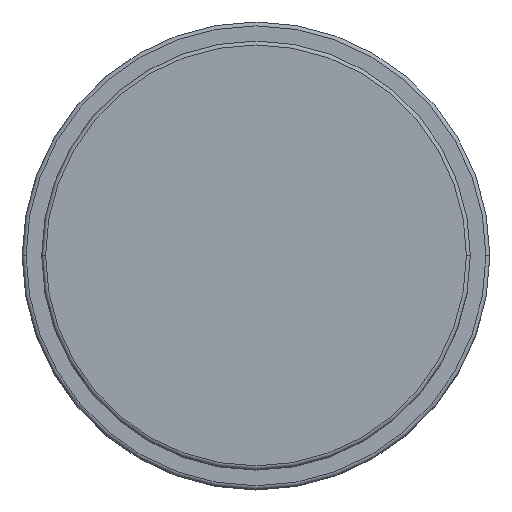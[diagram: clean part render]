
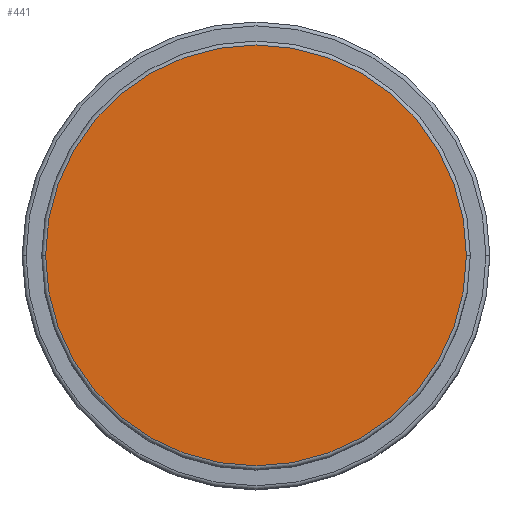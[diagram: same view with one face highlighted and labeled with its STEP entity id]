
A CAD part, top view. The second image highlights one B-rep face of the part: STEP entity #441.
In plain terms, the highlighted planar face has unit normal (0, 0, 1).
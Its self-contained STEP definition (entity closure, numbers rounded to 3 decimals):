
#196 = CIRCLE ( 'NONE', #1304, 27. ) ;
#226 = FACE_OUTER_BOUND ( 'NONE', #896, .T. ) ;
#323 = CARTESIAN_POINT ( 'NONE',  ( 27., 0., 56. ) ) ;
#441 = ADVANCED_FACE ( 'NONE', ( #226 ), #1459, .T. ) ;
#466 = DIRECTION ( 'NONE',  ( 1., 0., 0. ) ) ;
#480 = CARTESIAN_POINT ( 'NONE',  ( 0., 0., 56. ) ) ;
#489 = DIRECTION ( 'NONE',  ( 1., 0., 0. ) ) ;
#566 = VERTEX_POINT ( 'NONE', #647 ) ;
#595 = EDGE_CURVE ( 'NONE', #566, #1180, #196, .T. ) ;
#647 = CARTESIAN_POINT ( 'NONE',  ( -27., 0., 56. ) ) ;
#661 = DIRECTION ( 'NONE',  ( 1., 0., 0. ) ) ;
#782 = CIRCLE ( 'NONE', #933, 27. ) ;
#896 = EDGE_LOOP ( 'NONE', ( #1271, #1135 ) ) ;
#933 = AXIS2_PLACEMENT_3D ( 'NONE', #1211, #1332, #466 ) ;
#961 = AXIS2_PLACEMENT_3D ( 'NONE', #480, #1489, #489 ) ;
#1135 = ORIENTED_EDGE ( 'NONE', *, *, #595, .T. ) ;
#1180 = VERTEX_POINT ( 'NONE', #323 ) ;
#1211 = CARTESIAN_POINT ( 'NONE',  ( 0., 0., 56. ) ) ;
#1271 = ORIENTED_EDGE ( 'NONE', *, *, #1388, .T. ) ;
#1304 = AXIS2_PLACEMENT_3D ( 'NONE', #1646, #1387, #661 ) ;
#1332 = DIRECTION ( 'NONE',  ( 0., 0., 1. ) ) ;
#1387 = DIRECTION ( 'NONE',  ( 0., 0., 1. ) ) ;
#1388 = EDGE_CURVE ( 'NONE', #1180, #566, #782, .T. ) ;
#1459 = PLANE ( 'NONE',  #961 ) ;
#1489 = DIRECTION ( 'NONE',  ( 0., 0., 1. ) ) ;
#1646 = CARTESIAN_POINT ( 'NONE',  ( 0., 0., 56. ) ) ;
